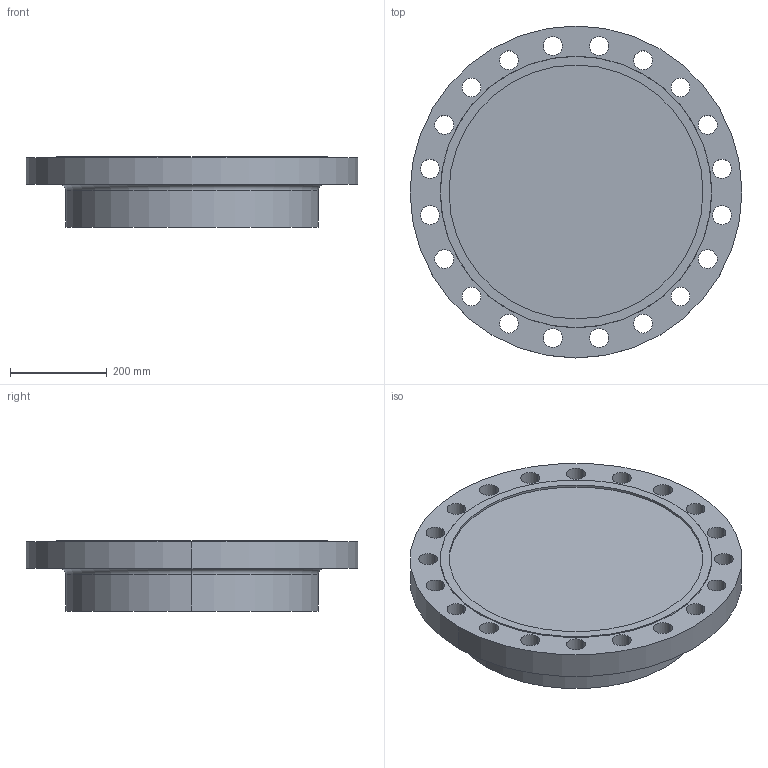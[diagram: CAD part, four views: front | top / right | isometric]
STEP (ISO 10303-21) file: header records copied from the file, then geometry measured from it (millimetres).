
FILE_DESCRIPTION (( 'STEP AP214' ), '1' );
FILE_NAME ('PN40 DN450 Type 21(i) - Type F Face.STEP', '2018-12-29T04:52:41', ( '' ), ( '' ), 'SwSTEP 2.0', 'SolidWorks 2019', '' );
FILE_SCHEMA (( 'AUTOMOTIVE_DESIGN' ));
Length unit declared in the file: millimetre
Products named in the file (1): PN40 DN450 Type 21(i) - Type F Face
Bounding box: 685 x 685 x 145 mm (x, y, z)
Volume: 37253920.4 mm3; surface area: 1089522.4 mm2
Topology: 1 solids, 1 shells, 55 faces, 148 edges, 98 vertices
Faces by surface type: cylinder 46, plane 5, torus 2, cone 2
Entity records: 1900 total; most frequent: DIRECTION 360, CARTESIAN_POINT 302, ORIENTED_EDGE 296, AXIS2_PLACEMENT_3D 156, EDGE_CURVE 148, CIRCLE 100, EDGE_LOOP 98, VERTEX_POINT 98
